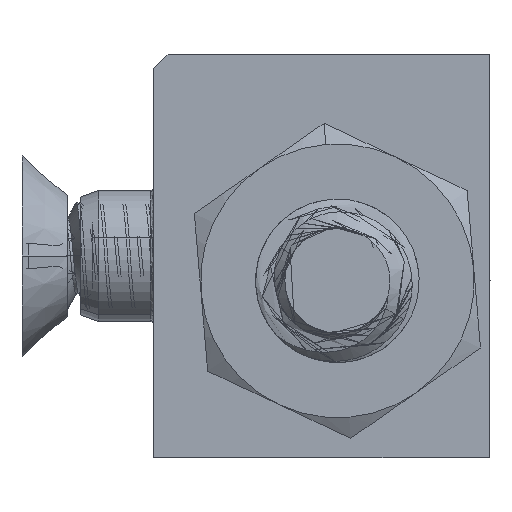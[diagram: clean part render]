
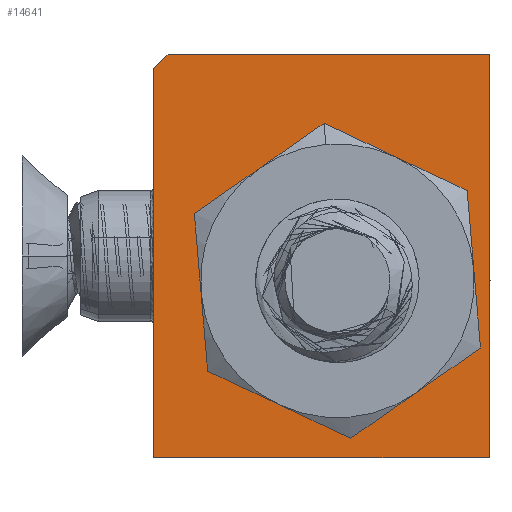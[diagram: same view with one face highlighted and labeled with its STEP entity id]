
A CAD part, front view. The second image highlights one B-rep face of the part: STEP entity #14641.
In plain terms, the highlighted planar face has unit normal (0, -1, 0) as drawn and (-1, 0, 0) by its records, which use the part's own axes.
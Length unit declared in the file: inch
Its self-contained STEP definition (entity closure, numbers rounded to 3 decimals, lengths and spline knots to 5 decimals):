
#292 = FACE_OUTER_BOUND ( 'NONE', #13131, .T. ) ;
#440 = VERTEX_POINT ( 'NONE', #5916 ) ;
#702 = CARTESIAN_POINT ( 'NONE',  ( -0.32917, -0.2381, -0.115 ) ) ;
#769 = AXIS2_PLACEMENT_3D ( 'NONE', #6562, #2564, #13216 ) ;
#1193 = EDGE_CURVE ( 'NONE', #7764, #2833, #3276, .T. ) ;
#1810 = DIRECTION ( 'NONE',  ( 0., 1., 0. ) ) ;
#1815 = ORIENTED_EDGE ( 'NONE', *, *, #1193, .F. ) ;
#2165 = VERTEX_POINT ( 'NONE', #12157 ) ;
#2321 = CARTESIAN_POINT ( 'NONE',  ( -0.32917, 0.0381, -0.115 ) ) ;
#2490 = DIRECTION ( 'NONE',  ( 0., 0.707, 0.707 ) ) ;
#2564 = DIRECTION ( 'NONE',  ( -1., 0., 0. ) ) ;
#2633 = EDGE_CURVE ( 'NONE', #4045, #2165, #4780, .T. ) ;
#2735 = LINE ( 'NONE', #10641, #17051 ) ;
#2833 = VERTEX_POINT ( 'NONE', #16223 ) ;
#2857 = CARTESIAN_POINT ( 'NONE',  ( -0.32917, -0.2381, -0.115 ) ) ;
#3276 = LINE ( 'NONE', #702, #3455 ) ;
#3455 = VECTOR ( 'NONE', #8678, 39.37008 ) ;
#3936 = AXIS2_PLACEMENT_3D ( 'NONE', #15282, #5787, #9953 ) ;
#4045 = VERTEX_POINT ( 'NONE', #4637 ) ;
#4272 = VECTOR ( 'NONE', #7290, 39.37008 ) ;
#4637 = CARTESIAN_POINT ( 'NONE',  ( -0.32917, -0.083, -0.071 ) ) ;
#4641 = FACE_BOUND ( 'NONE', #4965, .T. ) ;
#4780 = CIRCLE ( 'NONE', #3936, 0.06 ) ;
#4965 = EDGE_LOOP ( 'NONE', ( #8946, #9047 ) ) ;
#5787 = DIRECTION ( 'NONE',  ( -1., 0., 0. ) ) ;
#5869 = CIRCLE ( 'NONE', #769, 0.06 ) ;
#5916 = CARTESIAN_POINT ( 'NONE',  ( -0.32917, -0.2281, 0.115 ) ) ;
#6463 = ORIENTED_EDGE ( 'NONE', *, *, #15346, .T. ) ;
#6562 = CARTESIAN_POINT ( 'NONE',  ( -0.32917, -0.083, -0.011 ) ) ;
#6840 = VERTEX_POINT ( 'NONE', #10392 ) ;
#6971 = EDGE_CURVE ( 'NONE', #2833, #17013, #10568, .T. ) ;
#7279 = VECTOR ( 'NONE', #9146, 39.37008 ) ;
#7290 = DIRECTION ( 'NONE',  ( 0., 0., -1. ) ) ;
#7764 = VERTEX_POINT ( 'NONE', #2857 ) ;
#8278 = ORIENTED_EDGE ( 'NONE', *, *, #10016, .F. ) ;
#8355 = EDGE_CURVE ( 'NONE', #2165, #4045, #5869, .T. ) ;
#8678 = DIRECTION ( 'NONE',  ( 0., 1., 0. ) ) ;
#8946 = ORIENTED_EDGE ( 'NONE', *, *, #8355, .F. ) ;
#9047 = ORIENTED_EDGE ( 'NONE', *, *, #2633, .F. ) ;
#9146 = DIRECTION ( 'NONE',  ( 0., 0., 1. ) ) ;
#9619 = ORIENTED_EDGE ( 'NONE', *, *, #6971, .F. ) ;
#9770 = PLANE ( 'NONE',  #11977 ) ;
#9875 = LINE ( 'NONE', #13963, #16346 ) ;
#9953 = DIRECTION ( 'NONE',  ( 0., 0., 1. ) ) ;
#10016 = EDGE_CURVE ( 'NONE', #6840, #7764, #11904, .T. ) ;
#10330 = ORIENTED_EDGE ( 'NONE', *, *, #16480, .T. ) ;
#10392 = CARTESIAN_POINT ( 'NONE',  ( -0.32917, -0.2381, 0.105 ) ) ;
#10568 = LINE ( 'NONE', #2321, #7279 ) ;
#10641 = CARTESIAN_POINT ( 'NONE',  ( -0.32917, -0.2281, 0.115 ) ) ;
#11130 = DIRECTION ( 'NONE',  ( 0., 0., -1. ) ) ;
#11464 = CARTESIAN_POINT ( 'NONE',  ( -0.32917, -0.2381, 0.115 ) ) ;
#11904 = LINE ( 'NONE', #12160, #4272 ) ;
#11977 = AXIS2_PLACEMENT_3D ( 'NONE', #11464, #12717, #11130 ) ;
#12157 = CARTESIAN_POINT ( 'NONE',  ( -0.32917, -0.083, 0.049 ) ) ;
#12160 = CARTESIAN_POINT ( 'NONE',  ( -0.32917, -0.2381, 0.115 ) ) ;
#12717 = DIRECTION ( 'NONE',  ( 1., 0., 0. ) ) ;
#12937 = CARTESIAN_POINT ( 'NONE',  ( -0.32917, 0.0381, 0.115 ) ) ;
#13131 = EDGE_LOOP ( 'NONE', ( #8278, #6463, #10330, #9619, #1815 ) ) ;
#13216 = DIRECTION ( 'NONE',  ( 0., 0., 1. ) ) ;
#13963 = CARTESIAN_POINT ( 'NONE',  ( -0.32917, -0.2381, 0.115 ) ) ;
#14641 = ADVANCED_FACE ( 'NONE', ( #292, #4641 ), #9770, .F. ) ;
#15282 = CARTESIAN_POINT ( 'NONE',  ( -0.32917, -0.083, -0.011 ) ) ;
#15346 = EDGE_CURVE ( 'NONE', #6840, #440, #2735, .T. ) ;
#16223 = CARTESIAN_POINT ( 'NONE',  ( -0.32917, 0.0381, -0.115 ) ) ;
#16346 = VECTOR ( 'NONE', #1810, 39.37008 ) ;
#16480 = EDGE_CURVE ( 'NONE', #440, #17013, #9875, .T. ) ;
#17013 = VERTEX_POINT ( 'NONE', #12937 ) ;
#17051 = VECTOR ( 'NONE', #2490, 39.37008 ) ;
